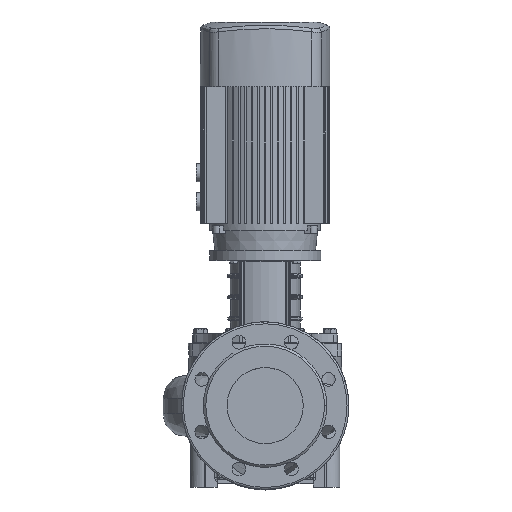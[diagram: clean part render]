
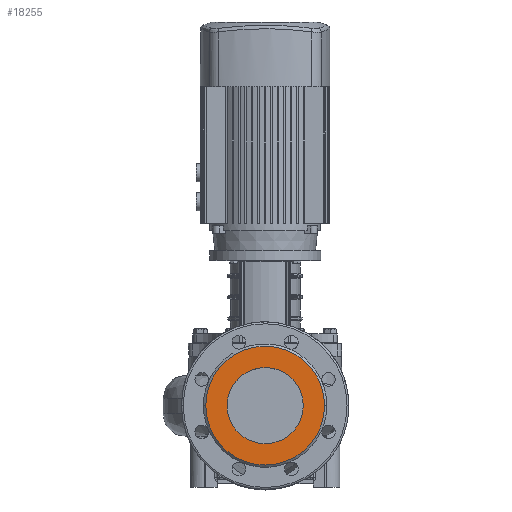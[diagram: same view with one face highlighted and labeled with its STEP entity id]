
A CAD part, top view. The second image highlights one B-rep face of the part: STEP entity #18255.
In plain terms, the highlighted planar face has unit normal (0, 0, 1).
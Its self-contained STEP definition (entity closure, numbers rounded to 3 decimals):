
#351 = EDGE_CURVE ( 'NONE', #15974, #44659, #37611, .T. ) ;
#4398 = ORIENTED_EDGE ( 'NONE', *, *, #26264, .T. ) ;
#6833 = FACE_OUTER_BOUND ( 'NONE', #42779, .T. ) ;
#8247 = EDGE_CURVE ( 'NONE', #26692, #36068, #34762, .T. ) ;
#9453 = DIRECTION ( 'NONE',  ( -1., 0., 0. ) ) ;
#10818 = PLANE ( 'NONE',  #42367 ) ;
#11641 = CARTESIAN_POINT ( 'NONE',  ( 0., 0., 225. ) ) ;
#11876 = DIRECTION ( 'NONE',  ( 0., 0., 1. ) ) ;
#11913 = CARTESIAN_POINT ( 'NONE',  ( 78., 0., 225. ) ) ;
#13473 = CARTESIAN_POINT ( 'NONE',  ( 0., 0., 225. ) ) ;
#14245 = AXIS2_PLACEMENT_3D ( 'NONE', #13473, #17519, #9453 ) ;
#15481 = CARTESIAN_POINT ( 'NONE',  ( 50., 0., 225. ) ) ;
#15974 = VERTEX_POINT ( 'NONE', #15481 ) ;
#17519 = DIRECTION ( 'NONE',  ( 0., 0., 1. ) ) ;
#17954 = FACE_BOUND ( 'NONE', #26028, .T. ) ;
#18255 = ADVANCED_FACE ( 'NONE', ( #6833, #17954 ), #10818, .F. ) ;
#19489 = DIRECTION ( 'NONE',  ( 1., 0., 0. ) ) ;
#19533 = EDGE_CURVE ( 'NONE', #44659, #15974, #37883, .T. ) ;
#20788 = ORIENTED_EDGE ( 'NONE', *, *, #19533, .F. ) ;
#21522 = CARTESIAN_POINT ( 'NONE',  ( 0., 78., 225. ) ) ;
#22250 = AXIS2_PLACEMENT_3D ( 'NONE', #31474, #27028, #45971 ) ;
#25599 = ORIENTED_EDGE ( 'NONE', *, *, #8247, .T. ) ;
#26028 = EDGE_LOOP ( 'NONE', ( #43226, #20788 ) ) ;
#26264 = EDGE_CURVE ( 'NONE', #36068, #26692, #43505, .T. ) ;
#26379 = DIRECTION ( 'NONE',  ( 0., 0., 1. ) ) ;
#26692 = VERTEX_POINT ( 'NONE', #11913 ) ;
#27028 = DIRECTION ( 'NONE',  ( 0., 0., 1. ) ) ;
#31474 = CARTESIAN_POINT ( 'NONE',  ( 0., 0., 225. ) ) ;
#33477 = CARTESIAN_POINT ( 'NONE',  ( -50., 0., 225. ) ) ;
#34762 = CIRCLE ( 'NONE', #14245, 78. ) ;
#36044 = DIRECTION ( 'NONE',  ( 0., -1., 0. ) ) ;
#36068 = VERTEX_POINT ( 'NONE', #42844 ) ;
#37611 = CIRCLE ( 'NONE', #39129, 50. ) ;
#37883 = CIRCLE ( 'NONE', #46220, 50. ) ;
#38910 = DIRECTION ( 'NONE',  ( 0., 0., -1. ) ) ;
#39129 = AXIS2_PLACEMENT_3D ( 'NONE', #11641, #11876, #19489 ) ;
#40186 = CARTESIAN_POINT ( 'NONE',  ( 0., 0., 225. ) ) ;
#42367 = AXIS2_PLACEMENT_3D ( 'NONE', #21522, #38910, #36044 ) ;
#42779 = EDGE_LOOP ( 'NONE', ( #4398, #25599 ) ) ;
#42844 = CARTESIAN_POINT ( 'NONE',  ( -78., 0., 225. ) ) ;
#43226 = ORIENTED_EDGE ( 'NONE', *, *, #351, .F. ) ;
#43505 = CIRCLE ( 'NONE', #22250, 78. ) ;
#44212 = DIRECTION ( 'NONE',  ( 1., 0., 0. ) ) ;
#44659 = VERTEX_POINT ( 'NONE', #33477 ) ;
#45971 = DIRECTION ( 'NONE',  ( -1., 0., 0. ) ) ;
#46220 = AXIS2_PLACEMENT_3D ( 'NONE', #40186, #26379, #44212 ) ;
